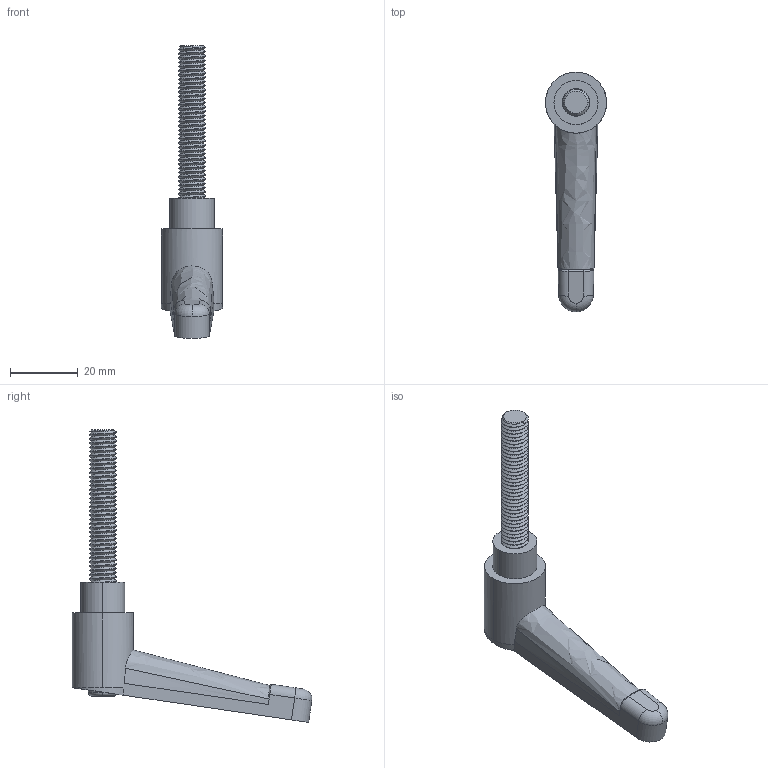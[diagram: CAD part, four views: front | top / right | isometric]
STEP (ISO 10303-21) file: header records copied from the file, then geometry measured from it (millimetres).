
FILE_DESCRIPTION (( 'STEP AP214' ), '1' );
FILE_NAME ('7177.STEP', '2015-04-16T11:24:16', ( 'user' ), ( '' ), 'SwSTEP 2.0', 'SolidWorks 2014', '' );
FILE_SCHEMA (( 'AUTOMOTIVE_DESIGN' ));
Length unit declared in the file: millimetre
Products named in the file (1): 7177
Bounding box: 18 x 70.61 x 86.24 mm (x, y, z)
Volume: 14969.4 mm3; surface area: 5868.5 mm2
Topology: 1 solids, 1 shells, 125 faces, 346 edges, 228 vertices
Faces by surface type: cylinder 85, plane 21, bspline 13, torus 4, cone 2
Entity records: 9479 total; most frequent: CARTESIAN_POINT 5433, ORIENTED_EDGE 692, DIRECTION 411, EDGE_CURVE 346, VERTEX_POINT 228, AXIS2_PLACEMENT_3D 143, EDGE_LOOP 130, UNCERTAINTY_MEASURE_WITH_UNIT 128
